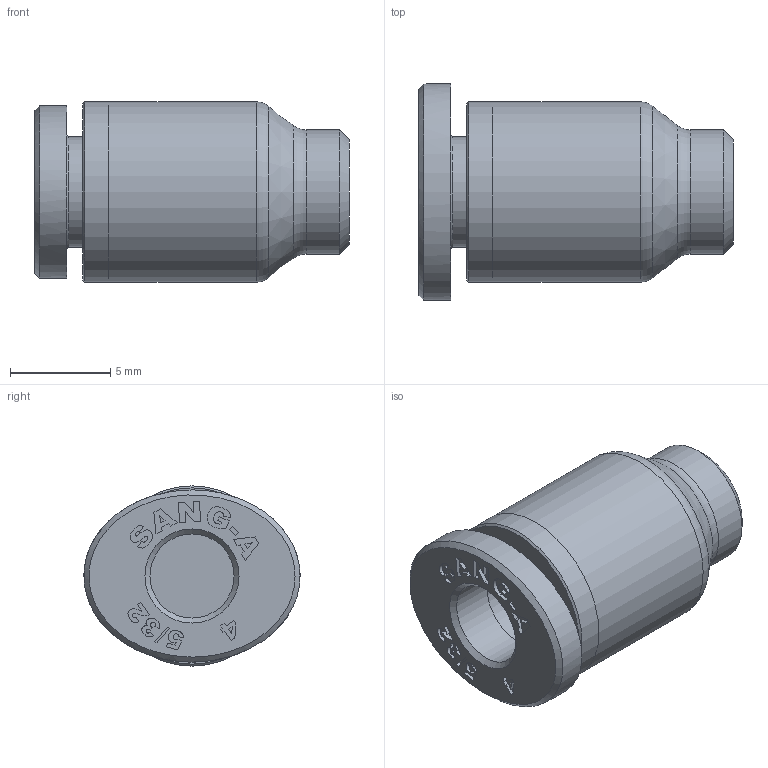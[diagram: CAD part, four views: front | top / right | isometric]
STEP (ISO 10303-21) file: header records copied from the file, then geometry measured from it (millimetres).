
FILE_DESCRIPTION((''),'2;1');
FILE_NAME('C:\Users\user0117\Desktop\김진일\홈페이지\5_32\Internet\G-FITTING INCH (STEP)\GPPF 04.stp','2020-02-24T14:16:47',('user0117'),(''),'Autodesk Inventor 2013','Autodesk Inventor 2013','');
FILE_SCHEMA(('AUTOMOTIVE_DESIGN { 1 0 10303 214 1 1 1 1 }'));
Length unit declared in the file: millimetre
Products named in the file (5): GPPF 04; GPPF BODY 04; G-COLLAR 5-32L; COLLAR G04L; SLEEVE G04
Assembly tree (4 placements, depth 3):
  GPPF 04
    GPPF BODY 04
    G-COLLAR 5-32L
      COLLAR G04L
      SLEEVE G04
Bounding box: 15.7 x 10.8 x 9 mm (x, y, z)
Volume: 659.1 mm3; surface area: 917.9 mm2
Topology: 3 solids, 3 shells, 171 faces, 442 edges, 293 vertices
Faces by surface type: plane 98, bspline 59, cylinder 7, cone 5, torus 2
Full cylindrical faces by diameter (mm): 4.2 x3, 5.5 x1, 6.2 x1, 9 x2
Entity records: 5761 total; most frequent: CARTESIAN_POINT 1899, ORIENTED_EDGE 846, DIRECTION 569, EDGE_CURVE 423, VERTEX_POINT 289, VECTOR 285, LINE 285, EDGE_LOOP 206
